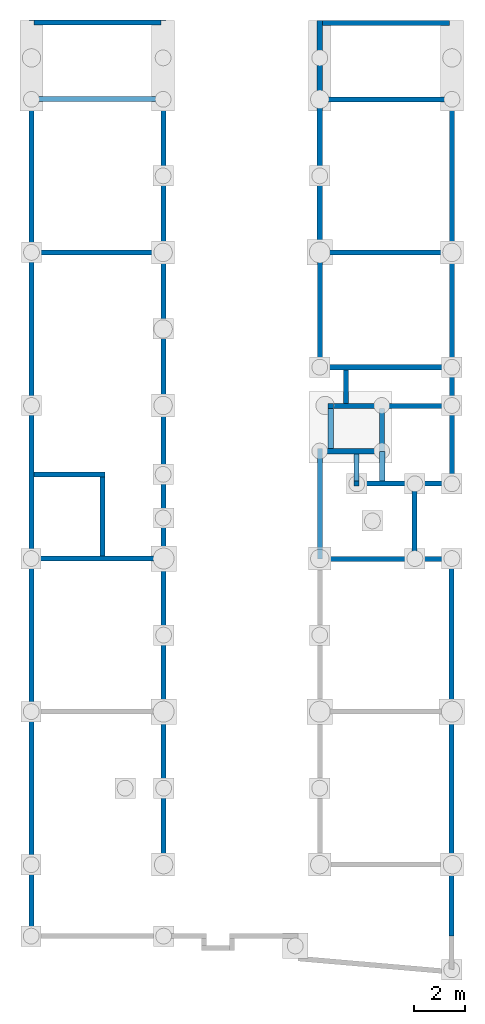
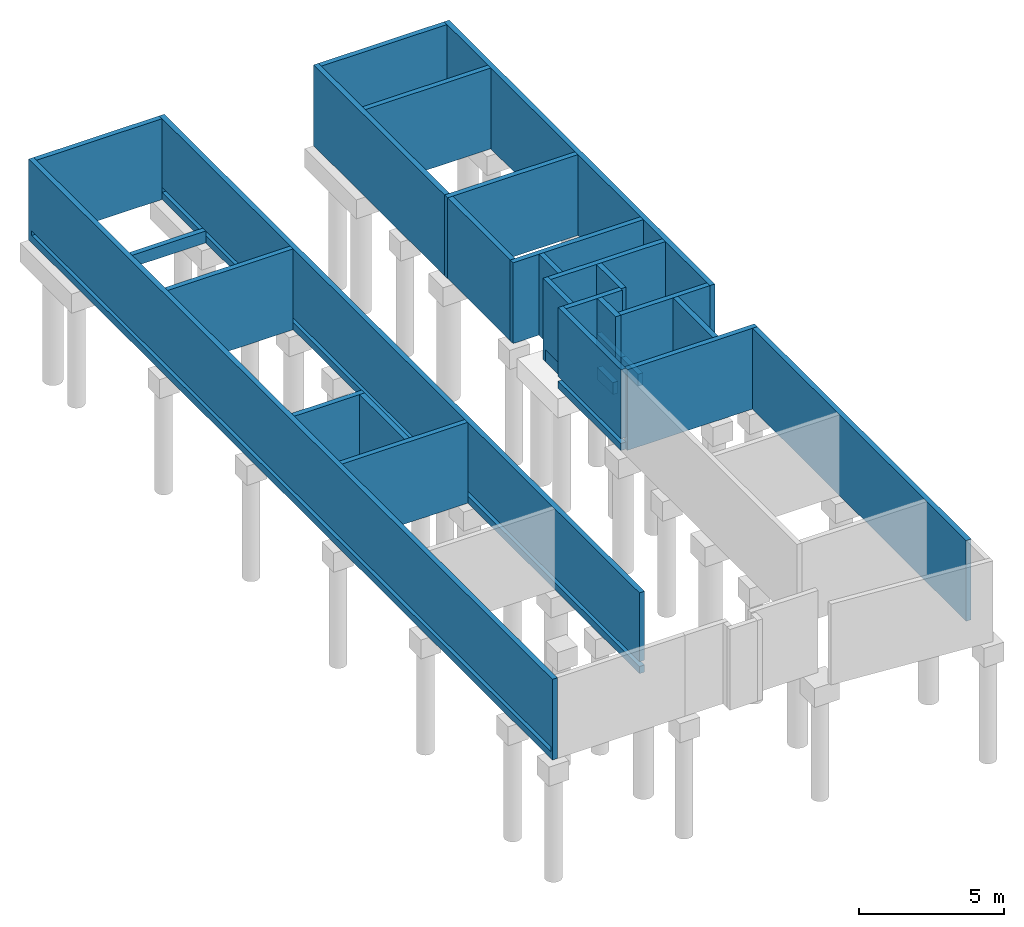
# One storey, part 3 of 3: 31 walls, 2 openings.
"""IFC2X3 building model written with IfcOpenShell, lengths in metres."""

import ifcopenshell
import ifcopenshell.guid

model = None  # the IFC model being written
_history = None  # IfcOwnerHistory: only IFC2X3 demands one
_inside = {}  # id of a spatial element -> (the spatial element, [elements in it])
_under = {}  # id of a project, library or spatial element -> (it, [spatial elements below it])
_declared = {}  # id of a project -> (the project, [libraries it declares])
_typed = {}  # id of a type object -> (the type object, [elements of that type])
_made_of = {}  # id of a material, layer set ... -> (it, [elements and type objects made of it])


def new_model(schema):
    """Start an empty IFC model of exactly this schema.

    Asked for "IFC4X3", IfcOpenShell would pick the latest addendum, in which some entities
    have other attributes; the version numbers below select the first issue.
    IFC2X3 requires an IfcOwnerHistory on every rooted entity: one is made here for all.
    """
    global model, _history
    if schema == "IFC4X3":
        model = ifcopenshell.file(schema_version=(4, 3, 0, 0))
    else:
        model = ifcopenshell.file(schema=schema)
    _inside.clear()
    _under.clear()
    _declared.clear()
    _typed.clear()
    _made_of.clear()
    _history = None
    if model.schema == "IFC2X3":
        org = make("IfcOrganization", Name="unknown")
        user = make(
            "IfcPersonAndOrganization",
            ThePerson=make("IfcPerson", FamilyName="unknown"),
            TheOrganization=org,
        )
        app = make(
            "IfcApplication",
            ApplicationDeveloper=org,
            Version="unknown",
            ApplicationFullName="unknown",
            ApplicationIdentifier="unknown",
        )
        _history = make(
            "IfcOwnerHistory",
            OwningUser=user,
            OwningApplication=app,
            ChangeAction="ADDED",
            CreationDate=0,
        )
    return model


def make(cls, **values):
    """One entity of the class cls with the attributes given. An attribute that is None is left unset."""
    return model.create_entity(
        cls, **{name: value for name, value in values.items() if value is not None}
    )


def entity(cls, *values):
    """Any entity or typed value of the class cls, its attributes in the order of the schema. None: left unset."""
    e = model.create_entity(cls)
    for i, value in enumerate(values):
        if value is not None:
            e[i] = value
    return e


def rooted(cls, **values):
    """An entity with a GlobalId (a new one), such as an element, a storey or a relation."""
    return make(cls, GlobalId=ifcopenshell.guid.new(), OwnerHistory=_history, **values)


def si_unit(unit_type, name, prefix=None):
    """IfcSIUnit, for example si_unit("LENGTHUNIT", "METRE", prefix="MILLI")."""
    return make("IfcSIUnit", UnitType=unit_type, Prefix=prefix, Name=name)


def converted_unit(unit_type, name, factor, base, dimensions=None, offset=None):
    """IfcConversionBasedUnit, such as the inch: factor (a typed value) times the base unit."""
    return make(
        "IfcConversionBasedUnit"
        if offset is None
        else "IfcConversionBasedUnitWithOffset",
        ConversionOffset=offset,
        Dimensions=None
        if dimensions is None
        else entity("IfcDimensionalExponents", *dimensions),
        UnitType=unit_type,
        Name=name,
        ConversionFactor=make(
            "IfcMeasureWithUnit", ValueComponent=factor, UnitComponent=base
        ),
    )


def derived_unit(unit_type, elements):
    """IfcDerivedUnit: a product of units, each with its exponent."""
    return make(
        "IfcDerivedUnit",
        Elements=[
            make("IfcDerivedUnitElement", Unit=unit, Exponent=power)
            for unit, power in elements
        ],
        UnitType=unit_type,
    )


def assignment(units):
    """IfcUnitAssignment: the units of a project."""
    return None if units is None else make("IfcUnitAssignment", Units=units)


def point(xyz):
    """IfcCartesianPoint."""
    return None if xyz is None else make("IfcCartesianPoint", Coordinates=xyz)


def direction(xyz):
    """IfcDirection."""
    return None if xyz is None else make("IfcDirection", DirectionRatios=xyz)


def frame(location, z_axis=None, x_axis=None):
    """IfcAxis2Placement3D, a coordinate frame: its origin and axes. An axis left out is left unset."""
    return make(
        "IfcAxis2Placement3D",
        Location=point(location),
        Axis=direction(z_axis),
        RefDirection=direction(x_axis),
    )


def frame_2d(location, x_axis=None):
    """IfcAxis2Placement2D, a coordinate frame in the plane: its origin and x axis."""
    return make(
        "IfcAxis2Placement2D", Location=point(location), RefDirection=direction(x_axis)
    )


def origin():
    """The frame at (0, 0, 0) with its axes left unset."""
    return frame((0.0, 0.0, 0.0))


def place(relative_to, where):
    """IfcLocalPlacement: puts the frame where relative to a parent placement (None: the world)."""
    return make(
        "IfcLocalPlacement", PlacementRelTo=relative_to, RelativePlacement=where
    )


def context(
    kind, dimensions, precision=None, world=None, true_north=None, identifier=None
):
    """IfcGeometricRepresentationContext, for example the 3D "Model" context."""
    return make(
        "IfcGeometricRepresentationContext",
        ContextIdentifier=identifier,
        ContextType=kind,
        CoordinateSpaceDimension=dimensions,
        Precision=precision,
        WorldCoordinateSystem=world,
        TrueNorth=true_north,
    )


def subcontext(parent, identifier, kind, view, scale=None):
    """IfcGeometricRepresentationSubContext, for example "Body" below "Model"."""
    return make(
        "IfcGeometricRepresentationSubContext",
        ContextIdentifier=identifier,
        ContextType=kind,
        ParentContext=parent,
        TargetScale=scale,
        TargetView=view,
    )


def project(units=None, contexts=None):
    """IfcProject with its units and contexts."""
    return rooted(
        "IfcProject",
        Name="project",
        RepresentationContexts=contexts,
        UnitsInContext=assignment(units),
    )


def spatial(cls, under=None, at=None, **own):
    """A site, building, storey or space (cls), placed at a placement, below another one or the project."""
    s = rooted(cls, ObjectPlacement=at, **own)
    if under is not None:
        _under.setdefault(under.id(), (under, []))[1].append(s)
    return s


def polyline(points):
    """IfcPolyline through the points."""
    return make("IfcPolyline", Points=[point(p) for p in points])


def profile(cls, at=None, kind="AREA", **sizes):
    """A parametric profile (cls). Its sizes go by their IFC names, for example OverallWidth=200.0."""
    return make(cls, ProfileType=kind, Position=at, **sizes)


def rectangle(**sizes):
    """IfcRectangleProfileDef."""
    return profile("IfcRectangleProfileDef", **sizes)


def outline(outer, holes=None, kind="AREA"):
    """IfcArbitraryClosedProfileDef: a profile drawn as a closed curve; with holes, ...WithVoids."""
    if holes is None:
        return make("IfcArbitraryClosedProfileDef", ProfileType=kind, OuterCurve=outer)
    return make(
        "IfcArbitraryProfileDefWithVoids",
        ProfileType=kind,
        OuterCurve=outer,
        InnerCurves=holes,
    )


def extrude(swept, where, along, depth):
    """IfcExtrudedAreaSolid: the profile swept, set in the frame where, extruded along a direction by depth."""
    return make(
        "IfcExtrudedAreaSolid",
        SweptArea=swept,
        Position=where,
        ExtrudedDirection=direction(along),
        Depth=depth,
    )


def clip(a, b, op="DIFFERENCE"):
    """IfcBooleanClippingResult: the solid a cut by the half space b."""
    return make(
        "IfcBooleanClippingResult", Operator=op, FirstOperand=a, SecondOperand=b
    )


def bounded_halfspace(plane, agree, where, boundary):
    """IfcPolygonalBoundedHalfSpace: a half space limited to a polygon's prism."""
    return make(
        "IfcPolygonalBoundedHalfSpace",
        BaseSurface=make("IfcPlane", Position=plane),
        AgreementFlag=agree,
        Position=where,
        PolygonalBoundary=boundary,
    )


def shape(context_of_items, identifier, shape_type, items):
    """IfcShapeRepresentation: the items that make up one representation, for example the "Body"."""
    return make(
        "IfcShapeRepresentation",
        ContextOfItems=context_of_items,
        RepresentationIdentifier=identifier,
        RepresentationType=shape_type,
        Items=items,
    )


def material(Name=None, Category=None):
    """IfcMaterial."""
    return make("IfcMaterial", Name=Name, Category=Category)


def layer(
    of_material, thickness, ventilated=None, Name=None, Category=None, Priority=None
):
    """IfcMaterialLayer: one layer of a wall or slab, of a material (None: an air gap)."""
    return make(
        "IfcMaterialLayer",
        Material=of_material,
        LayerThickness=thickness,
        IsVentilated=ventilated,
        Name=Name,
        Category=Category,
        Priority=Priority,
    )


def layer_set(layers, Name=None):
    """IfcMaterialLayerSet."""
    return make("IfcMaterialLayerSet", MaterialLayers=layers, LayerSetName=Name)


def layer_usage(for_layer_set, set_direction, sense, offset, extent=None):
    """IfcMaterialLayerSetUsage: how a layer set lies in its element."""
    return make(
        "IfcMaterialLayerSetUsage",
        ForLayerSet=for_layer_set,
        LayerSetDirection=set_direction,
        DirectionSense=sense,
        OffsetFromReferenceLine=offset,
        ReferenceExtent=extent,
    )


def made_of(thing, what):
    """Note that an element or type object is made of a material, layer set ...; save() writes the relation."""
    if what is not None:
        _made_of.setdefault(what.id(), (what, []))[1].append(thing)
    return thing


def type_object(cls, material=None, **own):
    """A type object (cls), such as IfcWallType, which elements share."""
    return made_of(rooted(cls, **own), material)


def element(
    cls,
    number,
    at=None,
    inside=None,
    cuts=None,
    type_object=None,
    material=None,
    context=None,
    identifier="Body",
    shape_type=None,
    held_by="IfcProductDefinitionShape",
    body=None,
    shapes=None,
    **own,
):
    """One element of the class cls, such as IfcWall. Its Tag is "e" and its number.

    at: its placement. inside: the storey or other place that contains it. cuts: it is an
    opening in that element (IfcRelVoidsElement). A single representation is given by context,
    identifier, shape_type and body (its items); several are given by shapes. held_by: the class
    of the entity that holds the representations. save() writes the other relations.
    """
    e = rooted(cls, Tag="e%d" % number, ObjectPlacement=at, **own)
    if body is not None:
        shapes = [shape(context, identifier, shape_type, body)]
    if shapes is not None:
        e.Representation = make(held_by, Representations=shapes)
    if inside is not None:
        _inside.setdefault(inside.id(), (inside, []))[1].append(e)
    if cuts is not None:
        rooted(
            "IfcRelVoidsElement", RelatingBuildingElement=cuts, RelatedOpeningElement=e
        )
    if type_object is not None:
        _typed.setdefault(type_object.id(), (type_object, []))[1].append(e)
    return made_of(e, material)


def aggregate(whole, parts):
    """IfcRelAggregates: a whole, such as a stair, and the parts it consists of."""
    return rooted("IfcRelAggregates", RelatingObject=whole, RelatedObjects=parts)


def save(model, path):
    """Write the relations noted so far, then the file.

    IfcRelAggregates (storeys below a building ...), IfcRelContainedInSpatialStructure (elements
    in a storey), IfcRelDefinesByType, IfcRelAssociatesMaterial and IfcRelDeclares: one each for
    every whole, place, type object, material and project.
    """
    for whole, parts in _under.values():
        aggregate(whole, parts)
    for where, things in _inside.values():
        rooted(
            "IfcRelContainedInSpatialStructure",
            RelatedElements=things,
            RelatingStructure=where,
        )
    for kind, things in _typed.values():
        rooted("IfcRelDefinesByType", RelatedObjects=things, RelatingType=kind)
    for what, things in _made_of.values():
        rooted("IfcRelAssociatesMaterial", RelatedObjects=things, RelatingMaterial=what)
    for by, libraries in _declared.values():
        rooted("IfcRelDeclares", RelatingContext=by, RelatedDefinitions=libraries)
    model.write(path)


model = new_model("IFC2X3")

# Units and contexts
model_context = context("Model", 3, precision=1e-05, world=origin(), true_north=direction((6.12303176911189e-17, 1.0)))
context_of_model = context(None, 3, precision=1e-05, world=origin(), true_north=direction((6.12303176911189e-17, 1.0)))
body_context = subcontext(model_context, "Body", "Model", "MODEL_VIEW")
ifc_project = project(units=[si_unit("LENGTHUNIT", "METRE"), si_unit("AREAUNIT", "SQUARE_METRE"), si_unit("VOLUMEUNIT", "CUBIC_METRE"), converted_unit("PLANEANGLEUNIT", "DEGREE", entity("IfcRatioMeasure", 0.0174532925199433), si_unit("PLANEANGLEUNIT", "RADIAN"), dimensions=[0, 0, 0, 0, 0, 0, 0]), si_unit("MASSUNIT", "GRAM", prefix="KILO"), si_unit("TIMEUNIT", "SECOND"), si_unit("FREQUENCYUNIT", "HERTZ"), si_unit("THERMODYNAMICTEMPERATUREUNIT", "DEGREE_CELSIUS"), derived_unit("THERMALTRANSMITTANCEUNIT", [(si_unit("MASSUNIT", "GRAM", prefix="KILO"), 1), (si_unit("THERMODYNAMICTEMPERATUREUNIT", "KELVIN"), -1), (si_unit("TIMEUNIT", "SECOND"), -3)]), derived_unit("VOLUMETRICFLOWRATEUNIT", [(si_unit("LENGTHUNIT", "METRE"), 3), (si_unit("TIMEUNIT", "SECOND"), -1)]), si_unit("ELECTRICCURRENTUNIT", "AMPERE"), si_unit("ELECTRICVOLTAGEUNIT", "VOLT"), si_unit("POWERUNIT", "WATT"), si_unit("FORCEUNIT", "NEWTON", prefix="KILO"), si_unit("ILLUMINANCEUNIT", "LUX"), si_unit("LUMINOUSFLUXUNIT", "LUMEN"), si_unit("LUMINOUSINTENSITYUNIT", "CANDELA"), si_unit("PRESSUREUNIT", "PASCAL")], contexts=[model_context, context_of_model])

# Site, building, storey
site_placement = place(None, origin())
site = spatial("IfcSite", under=ifc_project, at=site_placement, Name="Default", CompositionType="ELEMENT")
building_placement = place(site_placement, origin())
building = spatial("IfcBuilding", under=site, at=building_placement, CompositionType="ELEMENT")
storey_placement = place(building_placement, frame((0.0, 0.0, -3.39)))
storey = spatial("IfcBuildingStorey", under=building, at=storey_placement, Name="AS Dé", CompositionType="ELEMENT", Elevation=-3.39)

# Walls
ifc_material = material(Name="Béton C25/30")
ifc_layer = layer(ifc_material, 0.2)
ifc_layer_set = layer_set([ifc_layer], Name="Mur de base:Générique - 200 mm")
ifc_layer_usage_1 = layer_usage(ifc_layer_set, "AXIS2", "NEGATIVE", 0.1)
wall_type = type_object("IfcWallType", Name="Mur de base:Générique - 200 mm", PredefinedType="STANDARD", material=ifc_layer_set)
wall_1_placement = place(storey_placement, frame((3.08836098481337, -5.60414661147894, 0.0), z_axis=(0.0, 0.0, 1.0), x_axis=(0.0, -1.0, 0.0)))
element("IfcWallStandardCase", 1, at=wall_1_placement, inside=storey, type_object=wall_type, material=ifc_layer_usage_1, Name="Mur de base:Générique - 200 mm", ObjectType="Mur de base:Générique - 200 mm:1740", context=body_context, shape_type="SweptSolid", body=[
    extrude(rectangle(XDim=1.6815, YDim=0.2, at=frame_2d((0.84075, -7.63278329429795e-17), x_axis=(-1.0, 0.0))), origin(), (0.0, 0.0, 1.0), 3.39),
])
ifc_layer_usage_2 = layer_usage(ifc_layer_set, "AXIS2", "NEGATIVE", 0.1)
wall_2_placement = place(storey_placement, frame((1.07836098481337, -7.18564661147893, 0.0), z_axis=(0.0, 0.0, 1.0), x_axis=(0.0, 1.0, 0.0)))
element("IfcWallStandardCase", 2, at=wall_2_placement, inside=storey, type_object=wall_type, material=ifc_layer_usage_2, Name="Mur de base:Générique - 200 mm", ObjectType="Mur de base:Générique - 200 mm:1740", context=body_context, shape_type="SweptSolid", body=[
    extrude(rectangle(XDim=1.7815, YDim=0.2, at=frame_2d((0.89075, 0.0), x_axis=(-1.0, 0.0))), origin(), (0.0, 0.0, 1.0), 3.39),
])
ifc_layer_usage_3 = layer_usage(ifc_layer_set, "AXIS2", "NEGATIVE", 0.1)
wall_3_placement = place(storey_placement, frame((2.09336098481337, -7.38564661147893, 0.0), z_axis=(0.0, 0.0, 1.0), x_axis=(0.0, -1.0, 0.0)))
element("IfcWallStandardCase", 3, at=wall_3_placement, inside=storey, type_object=wall_type, material=ifc_layer_usage_3, Name="Mur de base:Générique - 200 mm", ObjectType="Mur de base:Générique - 200 mm:1740", context=body_context, shape_type="SweptSolid", body=[
    extrude(rectangle(XDim=1.2705, YDim=0.2, at=frame_2d((0.63525, -8.32667268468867e-17), x_axis=(-1.0, 0.0))), origin(), (0.0, 0.0, 1.0), 3.39),
])

# Wall, opening
ifc_layer_usage_4 = layer_usage(ifc_layer_set, "AXIS2", "NEGATIVE", 0.1)
wall_4_placement = place(storey_placement, frame((-10.6516390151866, 9.61985338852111, 0.0), z_axis=(0.0, 0.0, 1.0), x_axis=(0.0, -1.0, 0.0)))
wall_4 = element("IfcWallStandardCase", 4, at=wall_4_placement, inside=storey, type_object=wall_type, material=ifc_layer_usage_4, Name="Mur de base:Générique - 200 mm", ObjectType="Mur de base:Générique - 200 mm:1740", context=body_context, shape_type="SweptSolid", body=[
    extrude(rectangle(XDim=36.0, YDim=0.200000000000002, at=frame_2d((18.0, 6.93889390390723e-18), x_axis=(-1.0, 0.0))), origin(), (0.0, 0.0, 1.0), 3.39),
])
opening_1_placement = place(storey_placement, frame((-10.6516390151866, 9.61985338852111, 0.0), z_axis=(0.0, 0.0, 1.0), x_axis=(0.0, -1.0, 0.0)))
element("IfcOpeningElement", 5, at=opening_1_placement, cuts=wall_4, Name="Mur de base:Générique - 200 mm:1", ObjectType="Opening", context=body_context, shape_type="SweptSolid", body=[
    extrude(rectangle(XDim=0.199999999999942, YDim=35.7100000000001, at=frame_2d((1.40790157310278e-14, 1.77635683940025e-15), x_axis=(1.0, 0.0))), frame((18.055, 0.0, 0.3), z_axis=(0.0, 0.0, 1.0), x_axis=(0.0, 1.0, 0.0)), (0.0, 0.0, 1.0), 0.2),
])

# Walls
ifc_layer_usage_5 = layer_usage(ifc_layer_set, "AXIS2", "NEGATIVE", 0.1)
wall_5_placement = place(storey_placement, frame((0.658360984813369, -7.18564661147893, 0.0), z_axis=(0.0, 0.0, 1.0), x_axis=(0.0, -1.0, 0.0)))
element("IfcWallStandardCase", 6, at=wall_5_placement, inside=storey, type_object=wall_type, material=ifc_layer_usage_5, Name="Mur de base:Générique - 200 mm", ObjectType="Mur de base:Générique - 200 mm:1740", context=body_context, shape_type="Clipping", body=[
    clip(extrude(rectangle(XDim=4.3145, YDim=0.2, at=frame_2d((2.15725, -1.38777878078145e-17), x_axis=(-1.0, 0.0))), origin(), (0.0, 0.0, 1.0), 0.3), bounded_halfspace(frame((0.0, -0.1, 0.3), z_axis=(0.0, 0.0, -1.0), x_axis=(-1.0, 0.0, 0.0)), True, frame((0.0, -0.1, 0.3), z_axis=(0.0, 0.0, -1.0), x_axis=(-1.0, 0.0, 0.0)), polyline([(0.0, 0.0), (0.0, 0.2), (-4.3145, 0.199999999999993), (-4.3145, 0.0), (0.0, 0.0)]))),
])
ifc_layer_usage_6 = layer_usage(ifc_layer_set, "AXIS2", "NEGATIVE", 0.1)
wall_6_placement = place(storey_placement, frame((-10.5516390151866, 6.51985338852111, 0.0)))
element("IfcWallStandardCase", 7, at=wall_6_placement, inside=storey, type_object=wall_type, material=ifc_layer_usage_6, Name="Mur de base:Générique - 200 mm", ObjectType="Mur de base:Générique - 200 mm:1740", context=body_context, shape_type="SweptSolid", body=[
    extrude(rectangle(XDim=4.98, YDim=0.2, at=frame_2d((2.49, -3.12250225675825e-16), x_axis=(-1.0, 0.0))), origin(), (0.0, 0.0, 1.0), 0.5),
])
ifc_layer_usage_7 = layer_usage(ifc_layer_set, "AXIS2", "NEGATIVE", 0.1)
wall_7_placement = place(storey_placement, frame((5.72836098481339, 6.49985338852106, 0.0), z_axis=(0.0, 0.0, 1.0), x_axis=(-1.0, 0.0, 0.0)))
element("IfcWallStandardCase", 8, at=wall_7_placement, inside=storey, type_object=wall_type, material=ifc_layer_usage_7, Name="Mur de base:Générique - 200 mm", ObjectType="Mur de base:Générique - 200 mm:1740", context=body_context, shape_type="SweptSolid", body=[
    extrude(rectangle(XDim=4.98, YDim=0.2, at=frame_2d((2.49, -3.2612801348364e-16), x_axis=(-1.0, 0.0))), origin(), (0.0, 0.0, 1.0), 3.39),
])
ifc_layer_usage_8 = layer_usage(ifc_layer_set, "AXIS2", "NEGATIVE", 0.1)
wall_8_placement = place(storey_placement, frame((3.08836098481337, -5.60414661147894, 0.0), z_axis=(0.0, 0.0, 1.0), x_axis=(0.0, -1.0, 0.0)))
element("IfcWallStandardCase", 9, at=wall_8_placement, inside=storey, type_object=wall_type, material=ifc_layer_usage_8, Name="Mur de base:Générique - 200 mm", ObjectType="Mur de base:Générique - 200 mm:1740", context=body_context, shape_type="SweptSolid", body=[
    extrude(rectangle(XDim=1.6815, YDim=0.2, at=frame_2d((0.84075, -7.63278329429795e-17), x_axis=(-1.0, 0.0))), origin(), (0.0, 0.0, 1.0), 0.5),
])

# Wall, opening
ifc_layer_usage_9 = layer_usage(ifc_layer_set, "AXIS2", "NEGATIVE", 0.1)
wall_9_placement = place(storey_placement, frame((0.658360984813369, -7.18564661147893, 0.0), z_axis=(0.0, 0.0, 1.0), x_axis=(0.0, -1.0, 0.0)))
wall_9 = element("IfcWallStandardCase", 10, at=wall_9_placement, inside=storey, type_object=wall_type, material=ifc_layer_usage_9, Name="Mur de base:Générique - 200 mm", ObjectType="Mur de base:Générique - 200 mm:1740", context=body_context, shape_type="SweptSolid", body=[
    extrude(rectangle(XDim=4.3145, YDim=0.2, at=frame_2d((2.15725, -1.38777878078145e-17), x_axis=(-1.0, 0.0))), origin(), (0.0, 0.0, 1.0), 3.39),
])
opening_2_placement = place(storey_placement, frame((0.658360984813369, -7.18564661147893, 0.0), z_axis=(0.0, 0.0, 1.0), x_axis=(0.0, -1.0, 0.0)))
element("IfcOpeningElement", 11, at=opening_2_placement, cuts=wall_9, Name="Mur de base:Générique - 200 mm:1", ObjectType="Opening", context=body_context, shape_type="SweptSolid", body=[
    extrude(rectangle(XDim=4.3145, YDim=0.2, at=frame_2d((-6.66133814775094e-16, 0.0), x_axis=(1.0, 0.0))), frame((2.15725, 0.0, 0.3)), (0.0, 0.0, 1.0), 0.2),
])

# Walls
ifc_layer_usage_10 = layer_usage(ifc_layer_set, "AXIS2", "NEGATIVE", 0.1)
wall_10_placement = place(storey_placement, frame((1.07836098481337, -7.18564661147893, 0.0), z_axis=(0.0, 0.0, 1.0), x_axis=(0.0, 1.0, 0.0)))
element("IfcWallStandardCase", 12, at=wall_10_placement, inside=storey, type_object=wall_type, material=ifc_layer_usage_10, Name="Mur de base:Générique - 200 mm", ObjectType="Mur de base:Générique - 200 mm:1740", context=body_context, shape_type="SweptSolid", body=[
    extrude(rectangle(XDim=1.5815, YDim=0.2, at=frame_2d((0.79075, -2.08166817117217e-17), x_axis=(-1.0, 0.0))), origin(), (0.0, 0.0, 1.0), 0.5),
])
ifc_layer_usage_11 = layer_usage(ifc_layer_set, "AXIS2", "NEGATIVE", 0.1)
wall_11_placement = place(storey_placement, frame((2.09336098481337, -7.38564661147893, 0.0), z_axis=(0.0, 0.0, 1.0), x_axis=(0.0, -1.0, 0.0)))
element("IfcWallStandardCase", 13, at=wall_11_placement, inside=storey, type_object=wall_type, material=ifc_layer_usage_11, Name="Mur de base:Générique - 200 mm", ObjectType="Mur de base:Générique - 200 mm:1740", context=body_context, shape_type="SweptSolid", body=[
    extrude(rectangle(XDim=1.0705, YDim=0.2, at=frame_2d((0.53525, 2.77555756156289e-17), x_axis=(-1.0, 0.0))), origin(), (0.0, 0.0, 1.0), 0.5),
])
ifc_layer_usage_12 = layer_usage(ifc_layer_set, "AXIS2", "NEGATIVE", 0.1)
wall_12_placement = place(storey_placement, frame((3.09836098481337, -7.28564661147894, 0.0), z_axis=(0.0, 0.0, 1.0), x_axis=(0.0, -1.0, 0.0)))
element("IfcWallStandardCase", 14, at=wall_12_placement, inside=storey, type_object=wall_type, material=ifc_layer_usage_12, Name="Mur de base:Générique - 200 mm", ObjectType="Mur de base:Générique - 200 mm:1740", context=body_context, shape_type="SweptSolid", body=[
    extrude(rectangle(XDim=1.1705, YDim=0.2, at=frame_2d((0.58525, -8.32667268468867e-17), x_axis=(-1.0, 0.0))), origin(), (0.0, 0.0, 1.0), 0.5),
])
ifc_layer_usage_13 = layer_usage(ifc_layer_set, "AXIS2", "NEGATIVE", 0.1)
wall_13_placement = place(storey_placement, frame((4.36836098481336, -11.4001466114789, 0.0), z_axis=(0.0, 0.0, 1.0), x_axis=(0.0, 1.0, 0.0)))
element("IfcWallStandardCase", 15, at=wall_13_placement, inside=storey, type_object=wall_type, material=ifc_layer_usage_13, Name="Mur de base:Générique - 200 mm", ObjectType="Mur de base:Générique - 200 mm:1740", context=body_context, shape_type="SweptSolid", body=[
    extrude(rectangle(XDim=2.744, YDim=0.2, at=frame_2d((1.372, -7.63278329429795e-17), x_axis=(-1.0, 0.0))), origin(), (0.0, 0.0, 1.0), 3.39),
])
ifc_layer_usage_14 = layer_usage(ifc_layer_set, "AXIS2", "NEGATIVE", 0.1)
wall_14_placement = place(storey_placement, frame((5.8283609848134, 9.60985338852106, 0.0), z_axis=(0.0, 0.0, 1.0), x_axis=(0.0, -1.0, 0.0)))
element("IfcWallStandardCase", 16, at=wall_14_placement, inside=storey, type_object=wall_type, material=ifc_layer_usage_14, Name="Mur de base:Générique - 200 mm", ObjectType="Mur de base:Générique - 200 mm:1740", context=body_context, shape_type="SweptSolid", body=[
    extrude(rectangle(XDim=18.266, YDim=0.2, at=frame_2d((9.133, 8.32667268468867e-17), x_axis=(-1.0, 0.0))), origin(), (0.0, 0.0, 1.0), 3.39),
])
ifc_layer_usage_15 = layer_usage(ifc_layer_set, "AXIS2", "NEGATIVE", 0.1)
wall_15_placement = place(storey_placement, frame((2.19336098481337, -8.55614661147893, 0.0)))
element("IfcWallStandardCase", 17, at=wall_15_placement, inside=storey, type_object=wall_type, material=ifc_layer_usage_15, Name="Mur de base:Générique - 200 mm", ObjectType="Mur de base:Générique - 200 mm:1740", context=body_context, shape_type="SweptSolid", body=[
    extrude(rectangle(XDim=3.535, YDim=0.2, at=frame_2d((1.7675, -3.19189119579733e-16), x_axis=(-1.0, 0.0))), origin(), (0.0, 0.0, 1.0), 3.39),
])
ifc_layer_usage_16 = layer_usage(ifc_layer_set, "AXIS2", "NEGATIVE", 0.1)
wall_16_placement = place(storey_placement, frame((0.758360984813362, -11.5001466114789, 0.0)))
element("IfcWallStandardCase", 18, at=wall_16_placement, inside=storey, type_object=wall_type, material=ifc_layer_usage_16, Name="Mur de base:Générique - 200 mm", ObjectType="Mur de base:Générique - 200 mm:1740", context=body_context, shape_type="SweptSolid", body=[
    extrude(rectangle(XDim=5.16, YDim=0.200000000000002, at=frame_2d((2.58, 0.0), x_axis=(-1.0, 0.0))), origin(), (0.0, 0.0, 1.0), 3.39),
])
ifc_layer_usage_17 = layer_usage(ifc_layer_set, "AXIS2", "NEGATIVE", 0.1)
wall_17_placement = place(storey_placement, frame((5.81836098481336, -11.6001466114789, 0.0), z_axis=(0.0, 0.0, 1.0), x_axis=(0.0, -1.0, 0.0)))
element("IfcWallStandardCase", 19, at=wall_17_placement, inside=storey, type_object=wall_type, material=ifc_layer_usage_17, Name="Mur de base:Générique - 200 mm", ObjectType="Mur de base:Générique - 200 mm:1740", context=body_context, shape_type="SweptSolid", body=[
    extrude(rectangle(XDim=14.69, YDim=0.2, at=frame_2d((7.345, -1.59594559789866e-16), x_axis=(-1.0, 0.0))), origin(), (0.0, 0.0, 1.0), 3.39),
])
ifc_layer_usage_18 = layer_usage(ifc_layer_set, "AXIS2", "NEGATIVE", 0.1)
wall_18_placement = place(storey_placement, frame((1.17836098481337, -5.50414661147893, 0.0)))
element("IfcWallStandardCase", 20, at=wall_18_placement, inside=storey, type_object=wall_type, material=ifc_layer_usage_18, Name="Mur de base:Générique - 200 mm", ObjectType="Mur de base:Générique - 200 mm:1740", context=body_context, shape_type="SweptSolid", body=[
    extrude(rectangle(XDim=4.55, YDim=0.2, at=frame_2d((2.275, 2.15105711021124e-16), x_axis=(-1.0, 0.0))), origin(), (0.0, 0.0, 1.0), 3.39),
])
ifc_layer_usage_19 = layer_usage(ifc_layer_set, "AXIS2", "NEGATIVE", 0.1)
wall_19_placement = place(storey_placement, frame((0.548360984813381, 0.509853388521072, 0.0)))
element("IfcWallStandardCase", 21, at=wall_19_placement, inside=storey, type_object=wall_type, material=ifc_layer_usage_19, Name="Mur de base:Générique - 200 mm", ObjectType="Mur de base:Générique - 200 mm:1740", context=body_context, shape_type="SweptSolid", body=[
    extrude(rectangle(XDim=5.18, YDim=0.2, at=frame_2d((2.59, -2.08166817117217e-17), x_axis=(-1.0, 0.0))), origin(), (0.0, 0.0, 1.0), 3.39),
])
ifc_layer_usage_20 = layer_usage(ifc_layer_set, "AXIS2", "NEGATIVE", 0.1)
wall_20_placement = place(storey_placement, frame((-10.5516390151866, 0.509853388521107, 0.0)))
element("IfcWallStandardCase", 22, at=wall_20_placement, inside=storey, type_object=wall_type, material=ifc_layer_usage_20, Name="Mur de base:Générique - 200 mm", ObjectType="Mur de base:Générique - 200 mm:1740", context=body_context, shape_type="SweptSolid", body=[
    extrude(rectangle(XDim=4.98, YDim=0.2, at=frame_2d((2.49, 0.0), x_axis=(-1.0, 0.0))), origin(), (0.0, 0.0, 1.0), 3.39),
])
ifc_layer_usage_21 = layer_usage(ifc_layer_set, "AXIS2", "NEGATIVE", 0.1)
wall_21_placement = place(storey_placement, frame((5.72836098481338, -3.99014661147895, 0.0), z_axis=(0.0, 0.0, 1.0), x_axis=(-1.0, 0.0, 0.0)))
element("IfcWallStandardCase", 23, at=wall_21_placement, inside=storey, type_object=wall_type, material=ifc_layer_usage_21, Name="Mur de base:Générique - 200 mm", ObjectType="Mur de base:Générique - 200 mm:1740", context=body_context, shape_type="SweptSolid", body=[
    extrude(rectangle(XDim=5.17, YDim=0.2, at=frame_2d((2.585, 0.0), x_axis=(-1.0, 0.0))), origin(), (0.0, 0.0, 1.0), 3.39),
])
ifc_layer_usage_22 = layer_usage(ifc_layer_set, "AXIS2", "NEGATIVE", 0.1)
wall_22_placement = place(storey_placement, frame((-10.5516390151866, -11.4901466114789, 0.0)))
element("IfcWallStandardCase", 24, at=wall_22_placement, inside=storey, type_object=wall_type, material=ifc_layer_usage_22, Name="Mur de base:Générique - 200 mm", ObjectType="Mur de base:Générique - 200 mm:1740", context=body_context, shape_type="SweptSolid", body=[
    extrude(rectangle(XDim=4.98, YDim=0.199999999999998, at=frame_2d((2.49, -3.05311331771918e-16), x_axis=(-1.0, 0.0))), origin(), (0.0, 0.0, 1.0), 3.39),
])
ifc_layer_usage_23 = layer_usage(ifc_layer_set, "AXIS2", "NEGATIVE", 0.1)
wall_23_placement = place(storey_placement, frame((-5.47163901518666, -23.3901466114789, 0.0), z_axis=(0.0, 0.0, 1.0), x_axis=(0.0, 1.0, 0.0)))
element("IfcWallStandardCase", 25, at=wall_23_placement, inside=storey, type_object=wall_type, material=ifc_layer_usage_23, Name="Mur de base:Générique - 200 mm", ObjectType="Mur de base:Générique - 200 mm:1740", context=body_context, shape_type="Clipping", body=[
    clip(extrude(rectangle(XDim=33.01, YDim=0.2, at=frame_2d((16.505, -9.0205620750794e-17), x_axis=(-1.0, 0.0))), origin(), (0.0, 0.0, 1.0), 3.39), bounded_halfspace(frame((32.81, 0.100000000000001, 0.3), z_axis=(1.0, 0.0, 0.0), x_axis=(0.0, 0.0, 1.0)), True, frame((32.81, 0.100000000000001, 0.3), z_axis=(1.0, 0.0, 0.0), x_axis=(0.0, 0.0, 1.0)), polyline([(0.0, 0.0), (0.2, 0.0), (0.2, 0.200000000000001), (0.0, 0.200000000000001), (0.0, 0.0)]))),
])
ifc_layer_usage_24 = layer_usage(ifc_layer_set, "AXIS2", "NEGATIVE", 0.1)
wall_24_placement = place(storey_placement, frame((-10.5516390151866, 9.51985338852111, 0.0)))
element("IfcWallStandardCase", 26, at=wall_24_placement, inside=storey, type_object=wall_type, material=ifc_layer_usage_24, Name="Mur de base:Générique - 200 mm", ObjectType="Mur de base:Générique - 200 mm:1740", context=body_context, shape_type="SweptSolid", body=[
    extrude(rectangle(XDim=4.98, YDim=0.2, at=frame_2d((2.49, 2.15105711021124e-16), x_axis=(-1.0, 0.0))), origin(), (0.0, 0.0, 1.0), 3.39),
])
ifc_layer_usage_25 = layer_usage(ifc_layer_set, "AXIS2", "NEGATIVE", 0.1)
wall_25_placement = place(storey_placement, frame((-10.5516390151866, -8.19014661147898, 0.0)))
element("IfcWallStandardCase", 27, at=wall_25_placement, inside=storey, type_object=wall_type, material=ifc_layer_usage_25, Name="Mur de base:Générique - 200 mm", ObjectType="Mur de base:Générique - 200 mm:1740", context=body_context, shape_type="SweptSolid", body=[
    extrude(rectangle(XDim=2.79, YDim=0.2, at=frame_2d((1.395, -1.66533453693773e-16), x_axis=(-1.0, 0.0))), origin(), (0.0, 0.0, 1.0), 3.39),
])
ifc_layer_usage_26 = layer_usage(ifc_layer_set, "AXIS2", "NEGATIVE", 0.1)
wall_26_placement = place(storey_placement, frame((-7.86163901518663, -8.29014661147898, 0.0), z_axis=(0.0, 0.0, 1.0), x_axis=(0.0, -1.0, 0.0)))
element("IfcWallStandardCase", 28, at=wall_26_placement, inside=storey, type_object=wall_type, material=ifc_layer_usage_26, Name="Mur de base:Générique - 200 mm", ObjectType="Mur de base:Générique - 200 mm:1740", context=body_context, shape_type="SweptSolid", body=[
    extrude(rectangle(XDim=3.09999999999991, YDim=0.2, at=frame_2d((1.54999999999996, -1.52655665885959e-16), x_axis=(-1.0, 0.0))), origin(), (0.0, 0.0, 1.0), 3.39),
])
ifc_layer_usage_27 = layer_usage(ifc_layer_set, "AXIS2", "NEGATIVE", 0.1)
wall_27_placement = place(storey_placement, frame((0.758360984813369, -7.28564661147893, 0.0)))
element("IfcWallStandardCase", 29, at=wall_27_placement, inside=storey, type_object=wall_type, material=ifc_layer_usage_27, Name="Mur de base:Générique - 200 mm", ObjectType="Mur de base:Générique - 200 mm:1740", context=body_context, shape_type="SweptSolid", body=[
    extrude(outline(polyline([(2.24, -0.0999999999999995), (2.24, 0.0), (2.23, 0.0), (2.23, 0.1), (0.42, 0.1), (0.220000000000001, 0.100000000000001), (0.0, 0.100000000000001), (0.0, -0.1), (1.235, -0.0999999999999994), (1.435, -0.0999999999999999), (2.24, -0.0999999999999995)])), origin(), (0.0, 0.0, 1.0), 3.39),
])
ifc_layer_usage_28 = layer_usage(ifc_layer_set, "AXIS2", "NEGATIVE", 0.1)
wall_28_placement = place(storey_placement, frame((0.648360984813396, 9.60985338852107, 0.0), z_axis=(0.0, 0.0, 1.0), x_axis=(0.0, -1.0, 0.0)))
element("IfcWallStandardCase", 30, at=wall_28_placement, inside=storey, type_object=wall_type, material=ifc_layer_usage_28, Name="Mur de base:Générique - 200 mm", ObjectType="Mur de base:Générique - 200 mm:1740", context=body_context, shape_type="SweptSolid", body=[
    extrude(rectangle(XDim=9.0, YDim=0.2, at=frame_2d((4.5, -2.08166817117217e-17), x_axis=(-1.0, 0.0))), origin(), (0.0, 0.0, 1.0), 3.39),
])
ifc_layer_usage_29 = layer_usage(ifc_layer_set, "AXIS2", "NEGATIVE", 0.1)
wall_29_placement = place(storey_placement, frame((0.748360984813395, 9.50985338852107, 0.0)))
element("IfcWallStandardCase", 31, at=wall_29_placement, inside=storey, type_object=wall_type, material=ifc_layer_usage_29, Name="Mur de base:Générique - 200 mm", ObjectType="Mur de base:Générique - 200 mm:1740", context=body_context, shape_type="SweptSolid", body=[
    extrude(rectangle(XDim=4.98, YDim=0.2, at=frame_2d((2.49, 4.44089209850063e-16), x_axis=(-1.0, 0.0))), origin(), (0.0, 0.0, 1.0), 3.39),
])
ifc_layer_usage_30 = layer_usage(ifc_layer_set, "AXIS2", "NEGATIVE", 0.1)
wall_30_placement = place(storey_placement, frame((1.67836098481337, -4.09014661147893, 0.0), z_axis=(0.0, 0.0, 1.0), x_axis=(0.0, -1.0, 0.0)))
element("IfcWallStandardCase", 32, at=wall_30_placement, inside=storey, type_object=wall_type, material=ifc_layer_usage_30, Name="Mur de base:Générique - 200 mm", ObjectType="Mur de base:Générique - 200 mm:1740", context=body_context, shape_type="SweptSolid", body=[
    extrude(rectangle(XDim=1.314, YDim=0.2, at=frame_2d((0.656999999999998, -2.08166817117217e-17), x_axis=(-1.0, 0.0))), origin(), (0.0, 0.0, 1.0), 3.39),
])
ifc_layer_usage_31 = layer_usage(ifc_layer_set, "AXIS2", "NEGATIVE", 0.1)
wall_31_placement = place(storey_placement, frame((0.658360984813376, -3.89014661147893, 0.0), z_axis=(0.0, 0.0, 1.0), x_axis=(0.0, 1.0, 0.0)))
element("IfcWallStandardCase", 33, at=wall_31_placement, inside=storey, type_object=wall_type, material=ifc_layer_usage_31, Name="Mur de base:Générique - 200 mm", ObjectType="Mur de base:Générique - 200 mm:1740", context=body_context, shape_type="SweptSolid", body=[
    extrude(rectangle(XDim=4.3, YDim=0.2, at=frame_2d((2.15, -2.08166817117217e-17), x_axis=(-1.0, 0.0))), origin(), (0.0, 0.0, 1.0), 3.39),
])

save(model, "model.ifc")
